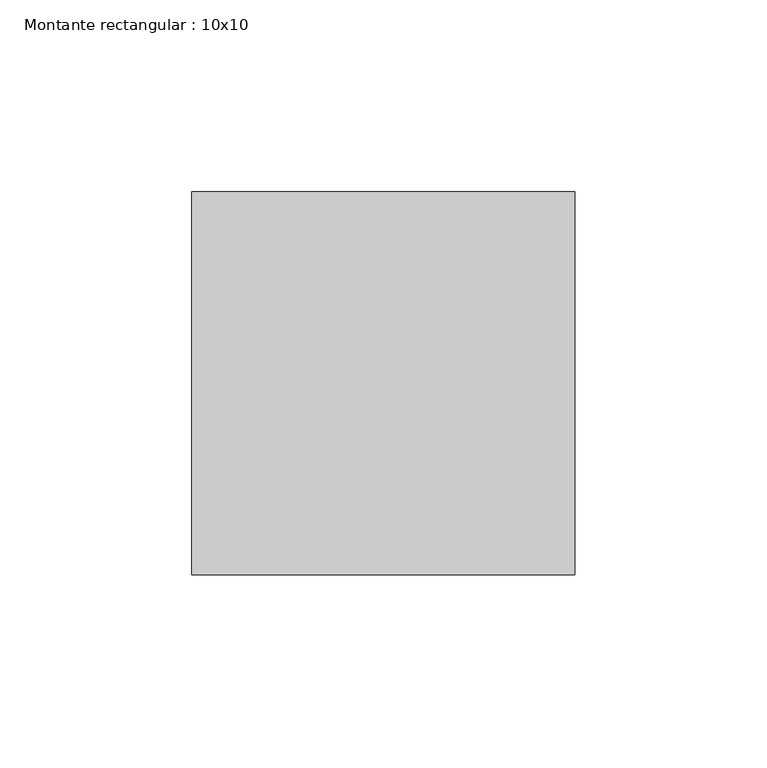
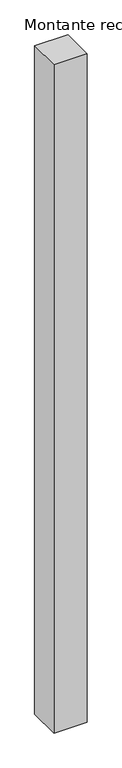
"""IFC4 building model written with IfcOpenShell, lengths in millimetres: member geometry, Montante rectangular : 10x10."""

from ifc_helpers import new_model, si_unit, frame, origin, place, context, project, spatial, polyline, outline, extrude, source, transform, mapped, element, save


def montante_rectangular_10x10_ed9c435a(model_context):
    return source(origin(), model_context, "Body", "SweptSolid", [
        extrude(outline(polyline([(100.0, 50.0), (100.0, -50.0), (0.0, -50.0), (0.0, 50.0), (100.0, 50.0)])), frame((0.0, 0.0, -2125.0), z_axis=(0.0, 0.0, 1.0), x_axis=(1.0, 0.0, 0.0)), (0.0, 0.0, 1.0), 2125.0),
    ])


if __name__ == "__main__":
    model = new_model("IFC4")
    model_context = context("Model", 3, world=origin())
    ifc_project = project(units=[si_unit("LENGTHUNIT", "METRE", prefix="MILLI")], contexts=[model_context])
    site = spatial("IfcSite", under=ifc_project)
    building = spatial("IfcBuilding", under=site)
    placement = place(None, origin())
    montante_rectangular_10x10_shape = montante_rectangular_10x10_ed9c435a(model_context)
    element("IfcMember", 1, ObjectType="Montante rectangular : 10x10", at=placement, inside=building, context=model_context, shape_type="MappedRepresentation", body=[
        mapped(montante_rectangular_10x10_shape, transform((0.0, 0.0, 0.0), x_axis=(1.0, 0.0, 0.0), y_axis=(0.0, 1.0, 0.0), z_axis=(0.0, 0.0, 1.0))),
    ])
    save(model, "model.ifc")
